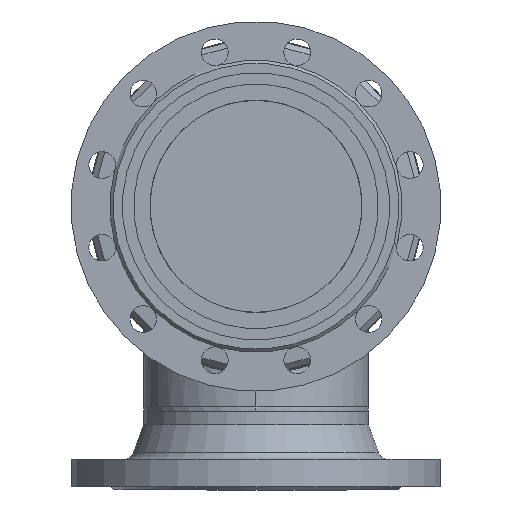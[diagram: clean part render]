
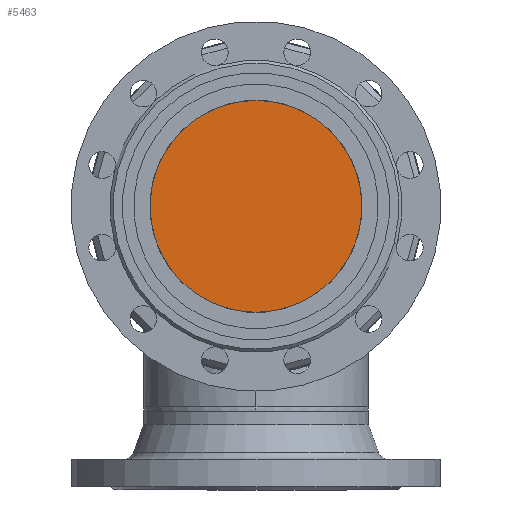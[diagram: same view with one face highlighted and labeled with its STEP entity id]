
A CAD part, front view. The second image highlights one B-rep face of the part: STEP entity #5463.
In plain terms, the highlighted planar face has unit normal (0, -1, 0).
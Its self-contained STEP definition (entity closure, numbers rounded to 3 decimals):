
#1847 = VERTEX_POINT ( 'NONE', #7658 ) ;
#2059 = VERTEX_POINT ( 'NONE', #7861 ) ;
#2274 = EDGE_CURVE ( 'NONE', #2059, #1847, #8025, .T. ) ;
#5319 = ORIENTED_EDGE ( 'NONE', *, *, #2274, .T. ) ;
#5374 = ORIENTED_EDGE ( 'NONE', *, *, #5609, .T. ) ;
#5436 = EDGE_LOOP ( 'NONE', ( #5374, #5319 ) ) ;
#5463 = ADVANCED_FACE ( 'NONE', ( #6553 ), #6554, .T. ) ;
#5609 = EDGE_CURVE ( 'NONE', #1847, #2059, #7851, .T. ) ;
#6553 = FACE_OUTER_BOUND ( 'NONE', #5436, .T. ) ;
#6554 = PLANE ( 'NONE',  #6555 ) ;
#6555 = AXIS2_PLACEMENT_3D ( 'NONE', #6556, #6557, #6558 ) ;
#6556 = CARTESIAN_POINT ( 'NONE',  ( 0., -48., 0. ) ) ;
#6557 = DIRECTION ( 'NONE',  ( 0., -1., 0. ) ) ;
#6558 = DIRECTION ( 'NONE',  ( 0., 0., -1. ) ) ;
#7658 = CARTESIAN_POINT ( 'NONE',  ( 0., -48., 125. ) ) ;
#7851 = CIRCLE ( 'NONE', #7852, 125. ) ;
#7852 = AXIS2_PLACEMENT_3D ( 'NONE', #7853, #7854, #7855 ) ;
#7853 = CARTESIAN_POINT ( 'NONE',  ( 0., -48., 0. ) ) ;
#7854 = DIRECTION ( 'NONE',  ( 0., -1., 0. ) ) ;
#7855 = DIRECTION ( 'NONE',  ( 0., 0., -1. ) ) ;
#7861 = CARTESIAN_POINT ( 'NONE',  ( 0., -48., -125. ) ) ;
#8025 = CIRCLE ( 'NONE', #8026, 125. ) ;
#8026 = AXIS2_PLACEMENT_3D ( 'NONE', #8027, #8028, #8029 ) ;
#8027 = CARTESIAN_POINT ( 'NONE',  ( 0., -48., 0. ) ) ;
#8028 = DIRECTION ( 'NONE',  ( 0., -1., 0. ) ) ;
#8029 = DIRECTION ( 'NONE',  ( 0., 0., -1. ) ) ;
